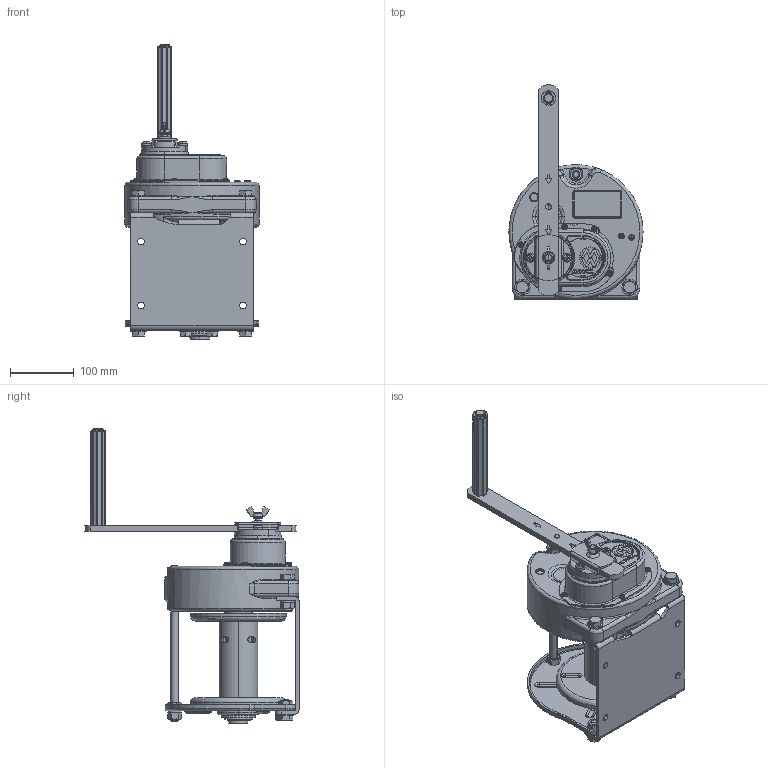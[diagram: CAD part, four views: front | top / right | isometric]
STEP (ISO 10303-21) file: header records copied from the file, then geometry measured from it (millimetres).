
FILE_DESCRIPTION( (''), '2;1');
FILE_NAME ('GM-3-SIC.stp','2023-12-21T16:59:22',(''),(''),'spGate 19.8.2 (****-****-****-****)','','');
FILE_SCHEMA (('AUTOMOTIVE_DESIGN'));
Length unit declared in the file: millimetre
Products named in the file (3): Assembly; GM-3-SIC-prt0; GM-3-SIC-prt1
Assembly tree (2 placements, depth 2):
  Assembly
    GM-3-SIC-prt0
    GM-3-SIC-prt1
Bounding box: 209.96 x 335.43 x 463.5 mm (x, y, z)
Volume: 3687130 mm3; surface area: 597313.5 mm2
Topology: 2 solids, 2 shells, 2540 faces, 6614 edges, 4136 vertices
Faces by surface type: plane 1203, cylinder 798, bspline 469, sphere 70
Entity records: 139718 total; most frequent: CARTESIAN_POINT 27091, ORIENTED_EDGE 13098, DIRECTION 12364, COLOUR_RGB 9091, PRESENTATION_STYLE_ASSIGNMENT 9091, STYLED_ITEM 9091, EDGE_CURVE 6549, DRAUGHTING_PRE_DEFINED_CURVE_FONT 6549
